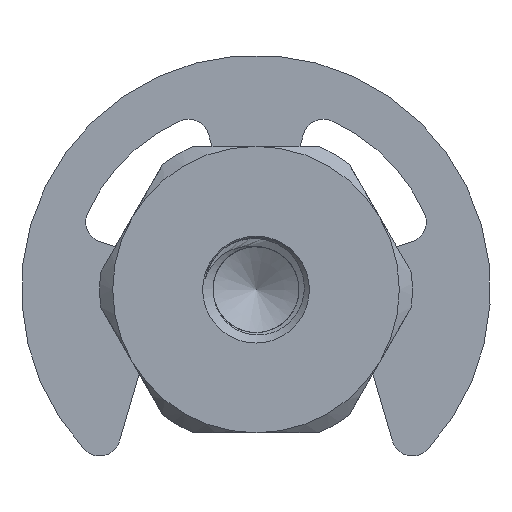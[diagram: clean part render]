
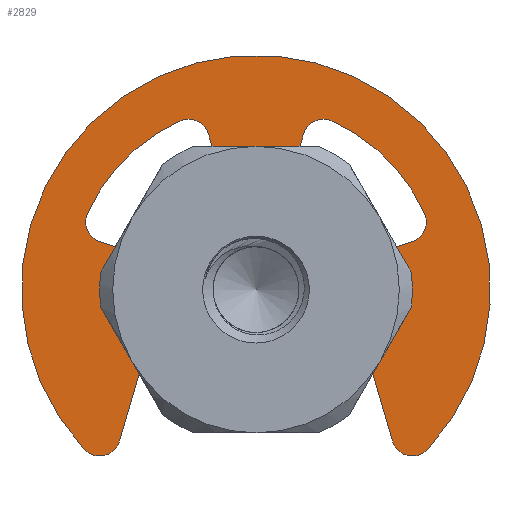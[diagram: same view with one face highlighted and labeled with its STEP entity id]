
A CAD part, front view. The second image highlights one B-rep face of the part: STEP entity #2829.
In plain terms, the highlighted planar face has unit normal (0, -1, 0) as drawn and (0, 0, -1) by its records, which use the part's own axes.
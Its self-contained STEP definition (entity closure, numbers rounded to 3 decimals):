
#231=PLANE('',#3029);
#275=FACE_OUTER_BOUND('',#439,.T.);
#439=EDGE_LOOP('',(#1853,#1854,#1855,#1856,#1857,#1858,#1859,#1860,#1861,
#1862,#1863,#1864,#1865,#1866,#1867,#1868,#1869,#1870,#1871,#1872,#1873,
#1874,#1875,#1876));
#598=LINE('',#3981,#770);
#604=LINE('',#4002,#776);
#611=LINE('',#4027,#783);
#617=LINE('',#4048,#789);
#619=LINE('',#4066,#791);
#620=LINE('',#4075,#792);
#770=VECTOR('',#3275,10.);
#776=VECTOR('',#3295,10.);
#783=VECTOR('',#3322,10.);
#789=VECTOR('',#3342,10.);
#791=VECTOR('',#3364,10.);
#792=VECTOR('',#3373,10.);
#940=CIRCLE('',#2997,0.8);
#942=CIRCLE('',#3001,0.5);
#944=CIRCLE('',#3004,0.8);
#946=CIRCLE('',#3008,0.5);
#948=CIRCLE('',#3011,9.);
#950=CIRCLE('',#3014,0.8);
#952=CIRCLE('',#3018,0.5);
#954=CIRCLE('',#3021,0.8);
#956=CIRCLE('',#3025,0.5);
#958=CIRCLE('',#3028,4.55);
#959=CIRCLE('',#3030,7.1);
#960=CIRCLE('',#3031,7.1);
#961=CIRCLE('',#3032,0.8);
#962=CIRCLE('',#3033,0.5);
#963=CIRCLE('',#3034,4.55);
#964=CIRCLE('',#3035,4.55);
#965=CIRCLE('',#3036,0.5);
#966=CIRCLE('',#3037,0.8);
#1045=VERTEX_POINT('',#3972);
#1046=VERTEX_POINT('',#3974);
#1048=VERTEX_POINT('',#3980);
#1050=VERTEX_POINT('',#3986);
#1053=VERTEX_POINT('',#3993);
#1054=VERTEX_POINT('',#3995);
#1056=VERTEX_POINT('',#4001);
#1058=VERTEX_POINT('',#4007);
#1060=VERTEX_POINT('',#4013);
#1062=VERTEX_POINT('',#4019);
#1064=VERTEX_POINT('',#4025);
#1066=VERTEX_POINT('',#4031);
#1069=VERTEX_POINT('',#4038);
#1070=VERTEX_POINT('',#4040);
#1072=VERTEX_POINT('',#4046);
#1074=VERTEX_POINT('',#4052);
#1075=VERTEX_POINT('',#4059);
#1076=VERTEX_POINT('',#4061);
#1077=VERTEX_POINT('',#4063);
#1078=VERTEX_POINT('',#4065);
#1079=VERTEX_POINT('',#4067);
#1080=VERTEX_POINT('',#4070);
#1081=VERTEX_POINT('',#4072);
#1082=VERTEX_POINT('',#4074);
#1345=EDGE_CURVE('',#1045,#1046,#940,.T.);
#1348=EDGE_CURVE('',#1046,#1048,#598,.T.);
#1351=EDGE_CURVE('',#1048,#1050,#942,.T.);
#1355=EDGE_CURVE('',#1053,#1054,#944,.T.);
#1358=EDGE_CURVE('',#1054,#1056,#604,.T.);
#1361=EDGE_CURVE('',#1056,#1058,#946,.T.);
#1365=EDGE_CURVE('',#1060,#1045,#948,.T.);
#1368=EDGE_CURVE('',#1062,#1060,#950,.T.);
#1371=EDGE_CURVE('',#1064,#1062,#611,.T.);
#1374=EDGE_CURVE('',#1066,#1064,#952,.T.);
#1377=EDGE_CURVE('',#1069,#1070,#954,.T.);
#1381=EDGE_CURVE('',#1072,#1069,#617,.T.);
#1384=EDGE_CURVE('',#1074,#1072,#956,.T.);
#1386=EDGE_CURVE('',#1058,#1074,#958,.T.);
#1387=EDGE_CURVE('',#1070,#1075,#959,.T.);
#1388=EDGE_CURVE('',#1076,#1053,#960,.T.);
#1389=EDGE_CURVE('',#1077,#1076,#961,.T.);
#1390=EDGE_CURVE('',#1077,#1078,#619,.T.);
#1391=EDGE_CURVE('',#1078,#1079,#962,.T.);
#1392=EDGE_CURVE('',#1050,#1079,#963,.T.);
#1393=EDGE_CURVE('',#1080,#1066,#964,.T.);
#1394=EDGE_CURVE('',#1081,#1080,#965,.T.);
#1395=EDGE_CURVE('',#1082,#1081,#620,.T.);
#1396=EDGE_CURVE('',#1082,#1075,#966,.T.);
#1853=ORIENTED_EDGE('',*,*,#1387,.F.);
#1854=ORIENTED_EDGE('',*,*,#1377,.F.);
#1855=ORIENTED_EDGE('',*,*,#1381,.F.);
#1856=ORIENTED_EDGE('',*,*,#1384,.F.);
#1857=ORIENTED_EDGE('',*,*,#1386,.F.);
#1858=ORIENTED_EDGE('',*,*,#1361,.F.);
#1859=ORIENTED_EDGE('',*,*,#1358,.F.);
#1860=ORIENTED_EDGE('',*,*,#1355,.F.);
#1861=ORIENTED_EDGE('',*,*,#1388,.F.);
#1862=ORIENTED_EDGE('',*,*,#1389,.F.);
#1863=ORIENTED_EDGE('',*,*,#1390,.T.);
#1864=ORIENTED_EDGE('',*,*,#1391,.T.);
#1865=ORIENTED_EDGE('',*,*,#1392,.F.);
#1866=ORIENTED_EDGE('',*,*,#1351,.F.);
#1867=ORIENTED_EDGE('',*,*,#1348,.F.);
#1868=ORIENTED_EDGE('',*,*,#1345,.F.);
#1869=ORIENTED_EDGE('',*,*,#1365,.F.);
#1870=ORIENTED_EDGE('',*,*,#1368,.F.);
#1871=ORIENTED_EDGE('',*,*,#1371,.F.);
#1872=ORIENTED_EDGE('',*,*,#1374,.F.);
#1873=ORIENTED_EDGE('',*,*,#1393,.F.);
#1874=ORIENTED_EDGE('',*,*,#1394,.F.);
#1875=ORIENTED_EDGE('',*,*,#1395,.F.);
#1876=ORIENTED_EDGE('',*,*,#1396,.T.);
#2829=ADVANCED_FACE('',(#275),#231,.F.);
#2997=AXIS2_PLACEMENT_3D('',#3975,#3269,#3270);
#3001=AXIS2_PLACEMENT_3D('',#3987,#3281,#3282);
#3004=AXIS2_PLACEMENT_3D('',#3996,#3289,#3290);
#3008=AXIS2_PLACEMENT_3D('',#4008,#3301,#3302);
#3011=AXIS2_PLACEMENT_3D('',#4015,#3309,#3310);
#3014=AXIS2_PLACEMENT_3D('',#4021,#3316,#3317);
#3018=AXIS2_PLACEMENT_3D('',#4033,#3328,#3329);
#3021=AXIS2_PLACEMENT_3D('',#4041,#3335,#3336);
#3025=AXIS2_PLACEMENT_3D('',#4054,#3348,#3349);
#3028=AXIS2_PLACEMENT_3D('',#4057,#3354,#3355);
#3029=AXIS2_PLACEMENT_3D('',#4058,#3356,#3357);
#3030=AXIS2_PLACEMENT_3D('',#4060,#3358,#3359);
#3031=AXIS2_PLACEMENT_3D('',#4062,#3360,#3361);
#3032=AXIS2_PLACEMENT_3D('',#4064,#3362,#3363);
#3033=AXIS2_PLACEMENT_3D('',#4068,#3365,#3366);
#3034=AXIS2_PLACEMENT_3D('',#4069,#3367,#3368);
#3035=AXIS2_PLACEMENT_3D('',#4071,#3369,#3370);
#3036=AXIS2_PLACEMENT_3D('',#4073,#3371,#3372);
#3037=AXIS2_PLACEMENT_3D('',#4076,#3374,#3375);
#3269=DIRECTION('center_axis',(0.,0.,1.));
#3270=DIRECTION('ref_axis',(0.96,-0.28,0.));
#3275=DIRECTION('',(0.28,0.96,0.));
#3281=DIRECTION('center_axis',(0.,0.,1.));
#3282=DIRECTION('ref_axis',(0.919,0.394,0.));
#3289=DIRECTION('center_axis',(0.,0.,-1.));
#3290=DIRECTION('ref_axis',(-0.411,0.911,0.));
#3295=DIRECTION('',(0.292,-0.956,0.));
#3301=DIRECTION('center_axis',(0.,0.,1.));
#3302=DIRECTION('ref_axis',(0.196,-0.981,0.));
#3309=DIRECTION('center_axis',(0.,0.,1.));
#3310=DIRECTION('ref_axis',(1.,0.,0.));
#3316=DIRECTION('center_axis',(0.,0.,1.));
#3317=DIRECTION('ref_axis',(-0.96,-0.28,0.));
#3322=DIRECTION('',(0.28,-0.96,0.));
#3328=DIRECTION('center_axis',(0.,0.,1.));
#3329=DIRECTION('ref_axis',(-0.919,0.394,0.));
#3335=DIRECTION('center_axis',(0.,0.,-1.));
#3336=DIRECTION('ref_axis',(0.411,0.911,0.));
#3342=DIRECTION('',(0.292,0.956,0.));
#3348=DIRECTION('center_axis',(0.,0.,1.));
#3349=DIRECTION('ref_axis',(-0.196,-0.981,0.));
#3354=DIRECTION('center_axis',(0.,0.,-1.));
#3355=DIRECTION('ref_axis',(1.,0.,0.));
#3356=DIRECTION('center_axis',(0.,0.,1.));
#3357=DIRECTION('ref_axis',(1.,0.,0.));
#3358=DIRECTION('center_axis',(0.,0.,-1.));
#3359=DIRECTION('ref_axis',(0.911,0.412,0.));
#3360=DIRECTION('center_axis',(0.,0.,-1.));
#3361=DIRECTION('ref_axis',(-0.911,0.412,0.));
#3362=DIRECTION('center_axis',(0.,0.,-1.));
#3363=DIRECTION('ref_axis',(-0.293,-0.956,0.));
#3364=DIRECTION('',(0.956,-0.293,0.));
#3365=DIRECTION('center_axis',(0.,0.,-1.));
#3366=DIRECTION('ref_axis',(0.293,0.956,0.));
#3367=DIRECTION('center_axis',(0.,0.,-1.));
#3368=DIRECTION('ref_axis',(-1.,0.,0.));
#3369=DIRECTION('center_axis',(0.,0.,-1.));
#3370=DIRECTION('ref_axis',(1.,0.,0.));
#3371=DIRECTION('center_axis',(0.,0.,1.));
#3372=DIRECTION('ref_axis',(-0.293,0.956,0.));
#3373=DIRECTION('',(-0.956,-0.293,0.));
#3374=DIRECTION('center_axis',(0.,0.,1.));
#3375=DIRECTION('ref_axis',(0.293,-0.956,0.));
#3972=CARTESIAN_POINT('',(-6.589,-6.131,0.));
#3974=CARTESIAN_POINT('',(-5.235,-5.81,0.));
#3975=CARTESIAN_POINT('Origin',(-6.003,-5.586,0.));
#3980=CARTESIAN_POINT('',(-4.162,-2.129,0.));
#3981=CARTESIAN_POINT('',(-3.33,0.724,0.));
#3986=CARTESIAN_POINT('',(-4.182,-1.792,0.));
#3987=CARTESIAN_POINT('Origin',(-4.642,-1.989,0.));
#3993=CARTESIAN_POINT('',(-2.921,6.471,0.));
#3995=CARTESIAN_POINT('',(-1.827,5.976,0.));
#3996=CARTESIAN_POINT('Origin',(-2.592,5.742,0.));
#4001=CARTESIAN_POINT('',(-1.469,4.806,0.));
#4002=CARTESIAN_POINT('',(-0.739,2.419,0.));
#4007=CARTESIAN_POINT('',(-0.893,4.462,0.));
#4008=CARTESIAN_POINT('Origin',(-0.991,4.952,0.));
#4013=CARTESIAN_POINT('',(6.589,-6.131,0.));
#4015=CARTESIAN_POINT('Origin',(0.,0.,0.));
#4019=CARTESIAN_POINT('',(5.235,-5.81,0.));
#4021=CARTESIAN_POINT('Origin',(6.003,-5.586,0.));
#4025=CARTESIAN_POINT('',(4.162,-2.129,0.));
#4027=CARTESIAN_POINT('',(3.699,-0.542,0.));
#4031=CARTESIAN_POINT('',(4.182,-1.792,0.));
#4033=CARTESIAN_POINT('Origin',(4.642,-1.989,0.));
#4038=CARTESIAN_POINT('',(1.827,5.976,0.));
#4040=CARTESIAN_POINT('',(2.921,6.471,0.));
#4041=CARTESIAN_POINT('Origin',(2.592,5.742,0.));
#4046=CARTESIAN_POINT('',(1.469,4.806,0.));
#4048=CARTESIAN_POINT('',(1.142,3.736,0.));
#4052=CARTESIAN_POINT('',(0.893,4.462,0.));
#4054=CARTESIAN_POINT('Origin',(0.991,4.952,0.));
#4057=CARTESIAN_POINT('Origin',(0.,0.,0.));
#4058=CARTESIAN_POINT('Origin',(4.713,1.475,0.));
#4059=CARTESIAN_POINT('',(6.47,2.923,0.));
#4060=CARTESIAN_POINT('Origin',(0.,0.,0.));
#4061=CARTESIAN_POINT('',(-6.47,2.923,0.));
#4062=CARTESIAN_POINT('Origin',(0.,0.,0.));
#4063=CARTESIAN_POINT('',(-5.975,1.829,0.));
#4064=CARTESIAN_POINT('Origin',(-5.741,2.594,0.));
#4065=CARTESIAN_POINT('',(-4.805,1.471,0.));
#4066=CARTESIAN_POINT('',(-5.975,1.829,0.));
#4067=CARTESIAN_POINT('',(-4.461,0.894,0.));
#4068=CARTESIAN_POINT('Origin',(-4.951,0.993,0.));
#4069=CARTESIAN_POINT('Origin',(0.,0.,0.));
#4070=CARTESIAN_POINT('',(4.461,0.894,0.));
#4071=CARTESIAN_POINT('Origin',(0.,0.,0.));
#4072=CARTESIAN_POINT('',(4.805,1.471,0.));
#4073=CARTESIAN_POINT('Origin',(4.951,0.993,0.));
#4074=CARTESIAN_POINT('',(5.975,1.829,0.));
#4075=CARTESIAN_POINT('',(5.975,1.829,0.));
#4076=CARTESIAN_POINT('Origin',(5.741,2.594,0.));
